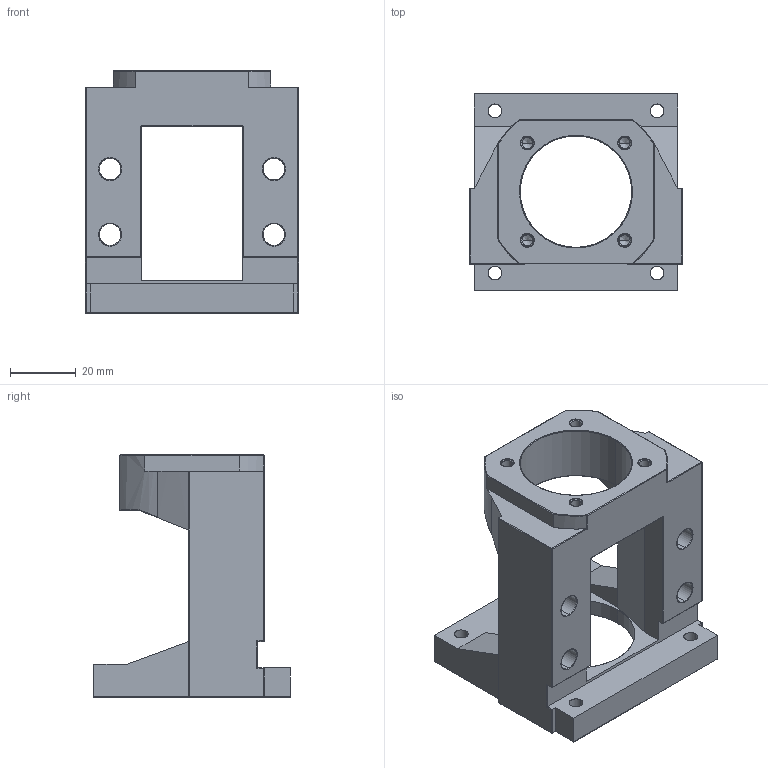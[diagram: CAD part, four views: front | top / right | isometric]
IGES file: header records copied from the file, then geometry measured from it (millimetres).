
Start section: SolidWorks IGES file using analytic representation for surfaces
Global section: file name: C:\Users\117\Desktop\1061208網站3D圖檔問題處理\傳動座\外露型\MBA\MBA10-D.IGS,15HSolidWorks; native system: 2017; preprocessor: SolidWorks 2017; author: 117; date: 171228.135836; units: millimetre
Bounding box: 65 x 60 x 74 mm (x, y, z)
Surface area: 26159.4 mm2 (no closed solid volume)
Topology: 0 solids, 0 shells, 211 faces, 2436 edges, 2418 vertices
Faces by surface type: revolution 126, bspline 85
